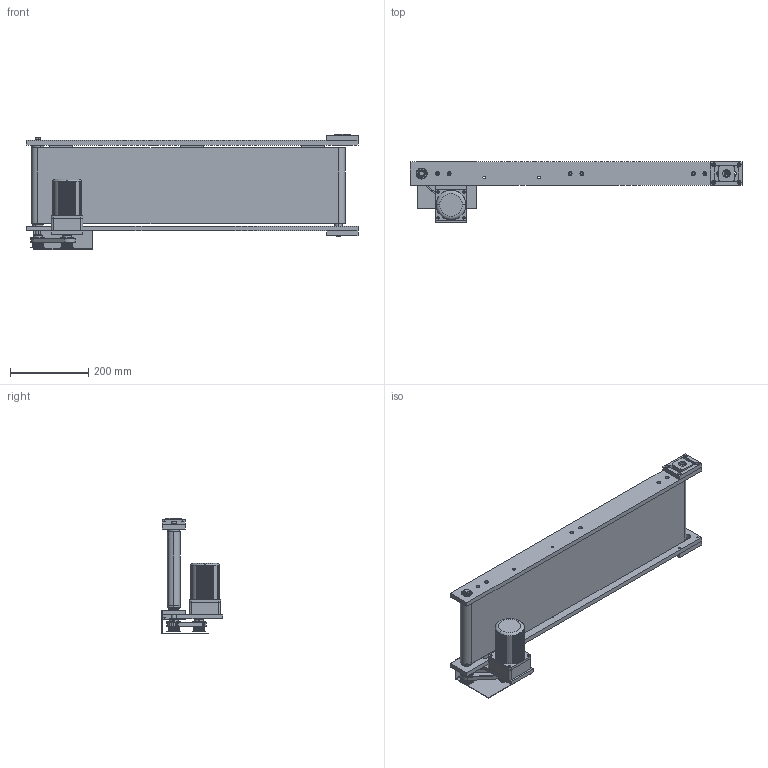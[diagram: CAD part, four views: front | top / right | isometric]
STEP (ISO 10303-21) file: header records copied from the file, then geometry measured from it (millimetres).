
FILE_DESCRIPTION(/* description */ (''),/* implementation_level */ '2;1');
FILE_NAME(/* name */ 'beltconveyor_a043_w200_l850.stp',/* time_stamp */ '2024-12-20T23:53:55+08:00',/* author */ (''),/* organization */ (''),/* preprocessor_version */ 'ST-DEVELOPER v16.7',/* originating_system */ 'SIEMENS PLM Software NX 12.0',/* authorisation */ '');
FILE_SCHEMA (('AUTOMOTIVE_DESIGN { 1 0 10303 214 3 1 1 1 }'));
Products named in the file (16): 输送带-4(皮带); 输送带-1(护板); 输送带-3(侧板); 输送带-5(主动轴); 输送带-8(同步带); 输送带-2(侧板); 输送带-15(滑动轴承座); 输送带-9(电机安装板); 输送带-11(调节板); 输送带-12(从动轴); 输送带-7(XL-18Z-20W同步轮); 输送带-13(深沟球轴承6001
); 输送带-6(XL-18Z-20W同步轮); 输送带-10(欧特电机4IK25RGN
); 输送带-14(中间支撑板); beltconveyor_a043_w200_l850
Assembly tree (22 placements, depth 2):
  beltconveyor_a043_w200_l850
    输送带-14(中间支撑板)  x3
    输送带-10(欧特电机4IK25RGN
)
    输送带-6(XL-18Z-20W同步轮)
    输送带-13(深沟球轴承6001
)  x4
    输送带-7(XL-18Z-20W同步轮)
    输送带-12(从动轴)
    输送带-11(调节板)  x2
    输送带-9(电机安装板)
    输送带-15(滑动轴承座)  x2
    输送带-2(侧板)
    输送带-8(同步带)
    输送带-5(主动轴)
    输送带-3(侧板)
    输送带-1(护板)
    输送带-4(皮带)
Bounding box: 850 x 156.5 x 295.46 mm (x, y, z)
Volume: 3354057.1 mm3; surface area: 1241878.3 mm2
Topology: 60 solids, 60 shells, 2332 faces, 6520 edges, 4285 vertices
Faces by surface type: plane 754, cylinder 738, extrusion 369, sphere 256, torus 130, cone 85
Entity records: 67202 total; most frequent: CARTESIAN_POINT 21480, ORIENTED_EDGE 9834, DIRECTION 8016, EDGE_CURVE 4917, VERTEX_POINT 3253, AXIS2_PLACEMENT_3D 2832, VECTOR 2352, EDGE_LOOP 2014
